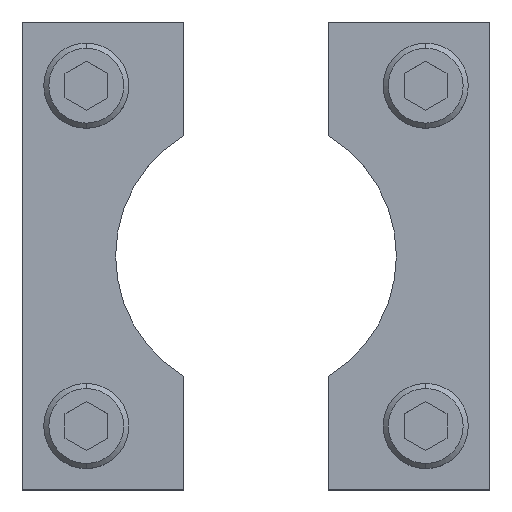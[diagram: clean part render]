
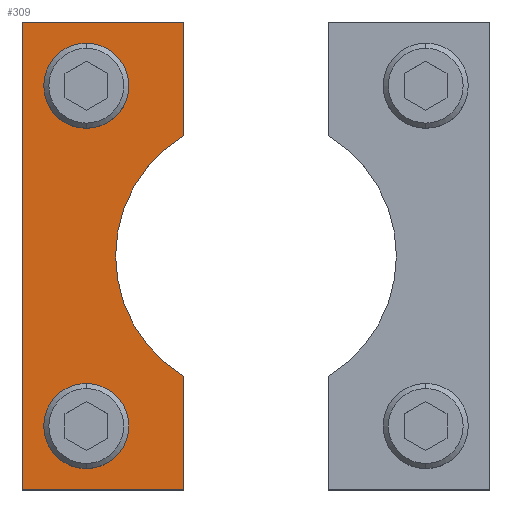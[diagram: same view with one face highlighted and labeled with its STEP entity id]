
A CAD part, top view. The second image highlights one B-rep face of the part: STEP entity #309.
In plain terms, the highlighted planar face has unit normal (0, 0, 1).
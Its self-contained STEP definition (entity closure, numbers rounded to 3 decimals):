
#175=FACE_BOUND('',#645,.T.);
#176=FACE_BOUND('',#646,.T.);
#177=FACE_BOUND('',#647,.T.);
#203=CIRCLE('',#2306,16.5);
#204=CIRCLE('',#2307,3.5);
#205=CIRCLE('',#2308,3.5);
#206=CIRCLE('',#2309,3.5);
#207=CIRCLE('',#2310,3.5);
#309=ADVANCED_FACE('',(#175,#176,#177),#445,.T.);
#445=PLANE('',#2311);
#645=EDGE_LOOP('',(#804,#805,#806,#807,#808,#809,#810,#811));
#646=EDGE_LOOP('',(#812,#813));
#647=EDGE_LOOP('',(#814,#815));
#804=ORIENTED_EDGE('',*,*,#1607,.T.);
#805=ORIENTED_EDGE('',*,*,#1608,.T.);
#806=ORIENTED_EDGE('',*,*,#1609,.T.);
#807=ORIENTED_EDGE('',*,*,#1600,.T.);
#808=ORIENTED_EDGE('',*,*,#1605,.T.);
#809=ORIENTED_EDGE('',*,*,#1610,.T.);
#810=ORIENTED_EDGE('',*,*,#1611,.T.);
#811=ORIENTED_EDGE('',*,*,#1612,.T.);
#812=ORIENTED_EDGE('',*,*,#1613,.T.);
#813=ORIENTED_EDGE('',*,*,#1614,.T.);
#814=ORIENTED_EDGE('',*,*,#1615,.T.);
#815=ORIENTED_EDGE('',*,*,#1616,.T.);
#1404=VERTEX_POINT('',#3229);
#1405=VERTEX_POINT('',#3231);
#1409=VERTEX_POINT('',#3240);
#1410=VERTEX_POINT('',#3245);
#1411=VERTEX_POINT('',#3246);
#1412=VERTEX_POINT('',#3248);
#1413=VERTEX_POINT('',#3251);
#1414=VERTEX_POINT('',#3253);
#1415=VERTEX_POINT('',#3256);
#1416=VERTEX_POINT('',#3257);
#1417=VERTEX_POINT('',#3260);
#1418=VERTEX_POINT('',#3261);
#1600=EDGE_CURVE('',#1405,#1404,#1904,.T.);
#1605=EDGE_CURVE('',#1404,#1409,#1909,.T.);
#1607=EDGE_CURVE('',#1410,#1411,#1911,.T.);
#1608=EDGE_CURVE('',#1411,#1412,#203,.T.);
#1609=EDGE_CURVE('',#1412,#1405,#1912,.T.);
#1610=EDGE_CURVE('',#1409,#1413,#1913,.T.);
#1611=EDGE_CURVE('',#1413,#1414,#1914,.T.);
#1612=EDGE_CURVE('',#1414,#1410,#1915,.T.);
#1613=EDGE_CURVE('',#1415,#1416,#204,.T.);
#1614=EDGE_CURVE('',#1416,#1415,#205,.T.);
#1615=EDGE_CURVE('',#1417,#1418,#206,.T.);
#1616=EDGE_CURVE('',#1418,#1417,#207,.T.);
#1904=LINE('',#3230,#2104);
#1909=LINE('',#3241,#2109);
#1911=LINE('',#3244,#2111);
#1912=LINE('',#3249,#2112);
#1913=LINE('',#3250,#2113);
#1914=LINE('',#3252,#2114);
#1915=LINE('',#3254,#2115);
#2104=VECTOR('',#2547,1.);
#2109=VECTOR('',#2554,1.);
#2111=VECTOR('',#2558,1.);
#2112=VECTOR('',#2561,1.);
#2113=VECTOR('',#2562,1.);
#2114=VECTOR('',#2563,1.);
#2115=VECTOR('',#2564,1.);
#2306=AXIS2_PLACEMENT_3D('',#3247,#2559,#2560);
#2307=AXIS2_PLACEMENT_3D('',#3255,#2565,#2566);
#2308=AXIS2_PLACEMENT_3D('',#3258,#2567,#2568);
#2309=AXIS2_PLACEMENT_3D('',#3259,#2569,#2570);
#2310=AXIS2_PLACEMENT_3D('',#3262,#2571,#2572);
#2311=AXIS2_PLACEMENT_3D('',#3263,#2573,#2574);
#2547=DIRECTION('',(0.,1.,0.));
#2554=DIRECTION('',(-1.,0.,0.));
#2558=DIRECTION('',(0.,1.,0.));
#2559=DIRECTION('',(0.,0.,-1.));
#2560=DIRECTION('',(1.,0.,0.));
#2561=DIRECTION('',(0.,1.,0.));
#2562=DIRECTION('',(0.,-1.,0.));
#2563=DIRECTION('',(1.,0.,0.));
#2564=DIRECTION('',(0.,1.,0.));
#2565=DIRECTION('',(0.,0.,-1.));
#2566=DIRECTION('',(-1.,0.,0.));
#2567=DIRECTION('',(0.,0.,-1.));
#2568=DIRECTION('',(1.,0.,0.));
#2569=DIRECTION('',(0.,0.,-1.));
#2570=DIRECTION('',(-1.,0.,0.));
#2571=DIRECTION('',(0.,0.,-1.));
#2572=DIRECTION('',(1.,0.,0.));
#2573=DIRECTION('',(0.,0.,1.));
#2574=DIRECTION('',(0.,1.,0.));
#3229=CARTESIAN_POINT('',(-8.5,27.5,6.));
#3230=CARTESIAN_POINT('',(-8.5,27.5,6.));
#3231=CARTESIAN_POINT('',(-8.5,16.993,6.));
#3240=CARTESIAN_POINT('',(-27.5,27.5,6.));
#3241=CARTESIAN_POINT('',(-8.5,27.5,6.));
#3244=CARTESIAN_POINT('',(-8.5,-14.142,6.));
#3245=CARTESIAN_POINT('',(-8.5,-16.993,6.));
#3246=CARTESIAN_POINT('',(-8.5,-14.142,6.));
#3247=CARTESIAN_POINT('',(0.,0.,6.));
#3248=CARTESIAN_POINT('',(-8.5,14.142,6.));
#3249=CARTESIAN_POINT('',(-8.5,16.993,6.));
#3250=CARTESIAN_POINT('',(-27.5,27.5,6.));
#3251=CARTESIAN_POINT('',(-27.5,-27.5,6.));
#3252=CARTESIAN_POINT('',(-8.5,-27.5,6.));
#3253=CARTESIAN_POINT('',(-8.5,-27.5,6.));
#3254=CARTESIAN_POINT('',(-8.5,-16.993,6.));
#3255=CARTESIAN_POINT('',(-19.952,-20.,6.));
#3256=CARTESIAN_POINT('',(-19.952,-16.5,6.));
#3257=CARTESIAN_POINT('',(-19.952,-23.5,6.));
#3258=CARTESIAN_POINT('',(-19.952,-20.,6.));
#3259=CARTESIAN_POINT('',(-19.952,20.,6.));
#3260=CARTESIAN_POINT('',(-19.952,23.5,6.));
#3261=CARTESIAN_POINT('',(-19.952,16.5,6.));
#3262=CARTESIAN_POINT('',(-19.952,20.,6.));
#3263=CARTESIAN_POINT('',(-8.5,-16.993,6.));
